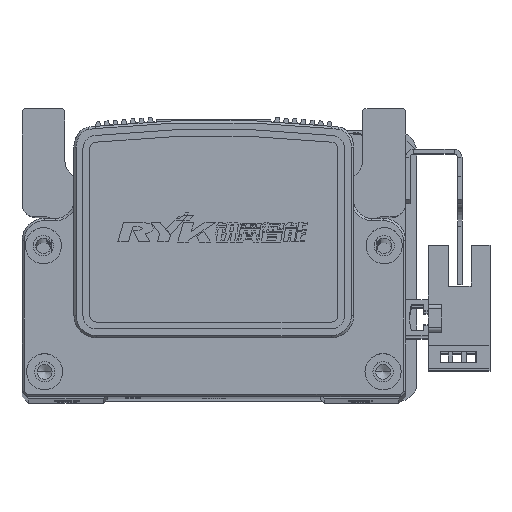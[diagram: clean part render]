
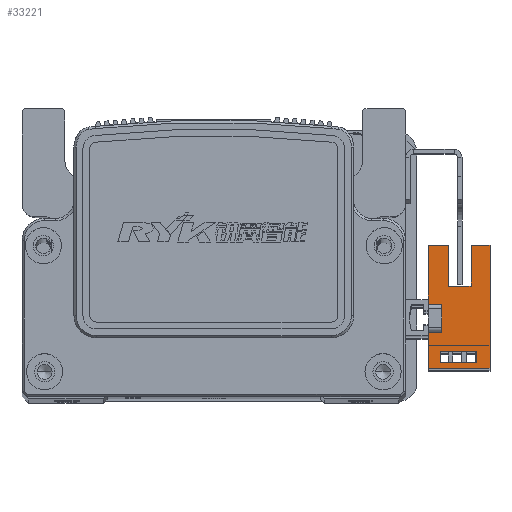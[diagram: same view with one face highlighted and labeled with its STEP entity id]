
A CAD part, top view. The second image highlights one B-rep face of the part: STEP entity #33221.
In plain terms, the highlighted planar face has unit normal (0, 0, 1) as drawn and (1, 0, 0) by its records, which use the part's own axes.
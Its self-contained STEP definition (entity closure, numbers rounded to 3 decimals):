
#4561 = CARTESIAN_POINT ( 'NONE',  ( 3.2, 3.1, 0. ) ) ;
#4572 = CARTESIAN_POINT ( 'NONE',  ( 3.2, -7.33, -7.7 ) ) ;
#4575 = CARTESIAN_POINT ( 'NONE',  ( 3.2, -11.1, -10.7 ) ) ;
#4578 = CARTESIAN_POINT ( 'NONE',  ( 3.2, -3.1, 0. ) ) ;
#4585 = CARTESIAN_POINT ( 'NONE',  ( 3.2, -9.83, -7.7 ) ) ;
#4589 = CARTESIAN_POINT ( 'NONE',  ( 3.2, 7.1, -1.5 ) ) ;
#4591 = CARTESIAN_POINT ( 'NONE',  ( 3.2, -9.83, 0.3 ) ) ;
#5791 = CARTESIAN_POINT ( 'NONE',  ( 3.2, -3.1, 3. ) ) ;
#5793 = CARTESIAN_POINT ( 'NONE',  ( 3.2, -11.1, 3. ) ) ;
#5798 = CARTESIAN_POINT ( 'NONE',  ( 3.2, 16.1, 3. ) ) ;
#5840 = CARTESIAN_POINT ( 'NONE',  ( 3.2, -7.33, 0.3 ) ) ;
#5844 = CARTESIAN_POINT ( 'NONE',  ( 3.2, 16.1, -10.7 ) ) ;
#5863 = CARTESIAN_POINT ( 'NONE',  ( 3.2, 16.1, -1.5 ) ) ;
#5866 = CARTESIAN_POINT ( 'NONE',  ( 3.2, 16.1, -6.5 ) ) ;
#5869 = CARTESIAN_POINT ( 'NONE',  ( 3.2, 7.1, -6.5 ) ) ;
#5875 = CARTESIAN_POINT ( 'NONE',  ( 3.2, 3.1, 3. ) ) ;
#8880 = EDGE_CURVE ( 'NONE', #43656, #43657, #35358, .T. ) ;
#8881 = EDGE_CURVE ( 'NONE', #43629, #43604, #35418, .T. ) ;
#8945 = EDGE_CURVE ( 'NONE', #43687, #43665, #35442, .T. ) ;
#8953 = EDGE_CURVE ( 'NONE', #43685, #43654, #35466, .T. ) ;
#8963 = EDGE_CURVE ( 'NONE', #43727, #43685, #35541, .T. ) ;
#8966 = EDGE_CURVE ( 'NONE', #43723, #43682, #35530, .T. ) ;
#8973 = EDGE_CURVE ( 'NONE', #43657, #43661, #35520, .T. ) ;
#8974 = EDGE_CURVE ( 'NONE', #43731, #43687, #35536, .T. ) ;
#8976 = EDGE_CURVE ( 'NONE', #43726, #43656, #35516, .T. ) ;
#8980 = EDGE_CURVE ( 'NONE', #43604, #43727, #35550, .T. ) ;
#8982 = EDGE_CURVE ( 'NONE', #43682, #43637, #35517, .T. ) ;
#8990 = EDGE_CURVE ( 'NONE', #43728, #43731, #35524, .T. ) ;
#8993 = EDGE_CURVE ( 'NONE', #43726, #43629, #35591, .T. ) ;
#8996 = EDGE_CURVE ( 'NONE', #43661, #43723, #35562, .T. ) ;
#8998 = EDGE_CURVE ( 'NONE', #43654, #43637, #35577, .T. ) ;
#9001 = EDGE_CURVE ( 'NONE', #43665, #43728, #35596, .T. ) ;
#12996 = FACE_BOUND ( 'NONE', #58023, .T. ) ;
#13051 = FACE_OUTER_BOUND ( 'NONE', #57981, .T. ) ;
#22020 = ORIENTED_EDGE ( 'NONE', *, *, #8993, .F. ) ;
#22021 = ORIENTED_EDGE ( 'NONE', *, *, #8880, .T. ) ;
#22022 = ORIENTED_EDGE ( 'NONE', *, *, #8976, .T. ) ;
#22023 = ORIENTED_EDGE ( 'NONE', *, *, #8953, .F. ) ;
#22026 = ORIENTED_EDGE ( 'NONE', *, *, #8998, .F. ) ;
#22032 = ORIENTED_EDGE ( 'NONE', *, *, #8990, .F. ) ;
#22035 = ORIENTED_EDGE ( 'NONE', *, *, #8945, .F. ) ;
#22047 = ORIENTED_EDGE ( 'NONE', *, *, #8982, .T. ) ;
#22053 = ORIENTED_EDGE ( 'NONE', *, *, #9001, .F. ) ;
#22056 = ORIENTED_EDGE ( 'NONE', *, *, #8966, .T. ) ;
#22077 = ORIENTED_EDGE ( 'NONE', *, *, #8974, .F. ) ;
#22080 = ORIENTED_EDGE ( 'NONE', *, *, #8996, .T. ) ;
#22081 = ORIENTED_EDGE ( 'NONE', *, *, #8980, .F. ) ;
#22112 = ORIENTED_EDGE ( 'NONE', *, *, #8973, .T. ) ;
#22121 = ORIENTED_EDGE ( 'NONE', *, *, #8963, .F. ) ;
#22143 = ORIENTED_EDGE ( 'NONE', *, *, #8881, .F. ) ;
#24458 = DIRECTION ( 'NONE',  ( 0., 0., 1. ) ) ;
#24465 = DIRECTION ( 'NONE',  ( 0., 1., 0. ) ) ;
#24477 = CARTESIAN_POINT ( 'NONE',  ( 3.2, 16.1, -10.7 ) ) ;
#24479 = CARTESIAN_POINT ( 'NONE',  ( 3.2, 16.1, 3. ) ) ;
#30643 = AXIS2_PLACEMENT_3D ( 'NONE', #59381, #59377, #59398 ) ;
#33221 = ADVANCED_FACE ( 'NONE', ( #13051, #12996 ), #59379, .T. ) ;
#35358 = LINE ( 'NONE', #24477, #35360 ) ;
#35360 = VECTOR ( 'NONE', #24458, 1000. ) ;
#35362 = VECTOR ( 'NONE', #24465, 1000. ) ;
#35418 = LINE ( 'NONE', #24479, #35362 ) ;
#35442 = LINE ( 'NONE', #38750, #35444 ) ;
#35444 = VECTOR ( 'NONE', #38768, 1000. ) ;
#35466 = LINE ( 'NONE', #38748, #35467 ) ;
#35467 = VECTOR ( 'NONE', #38764, 1000. ) ;
#35490 = VECTOR ( 'NONE', #38863, 1000. ) ;
#35491 = VECTOR ( 'NONE', #38794, 1000. ) ;
#35493 = VECTOR ( 'NONE', #38831, 1000. ) ;
#35500 = VECTOR ( 'NONE', #38799, 1000. ) ;
#35508 = VECTOR ( 'NONE', #38853, 1000. ) ;
#35516 = LINE ( 'NONE', #38793, #35549 ) ;
#35517 = LINE ( 'NONE', #38844, #35508 ) ;
#35520 = LINE ( 'NONE', #38798, #35500 ) ;
#35524 = LINE ( 'NONE', #38835, #35526 ) ;
#35526 = VECTOR ( 'NONE', #38836, 1000. ) ;
#35530 = LINE ( 'NONE', #38790, #35535 ) ;
#35535 = VECTOR ( 'NONE', #38819, 1000. ) ;
#35536 = LINE ( 'NONE', #38839, #35490 ) ;
#35541 = LINE ( 'NONE', #38803, #35491 ) ;
#35549 = VECTOR ( 'NONE', #38852, 1000. ) ;
#35550 = LINE ( 'NONE', #38830, #35493 ) ;
#35562 = LINE ( 'NONE', #38897, #35593 ) ;
#35568 = VECTOR ( 'NONE', #38877, 1000. ) ;
#35577 = LINE ( 'NONE', #38883, #35603 ) ;
#35580 = VECTOR ( 'NONE', #38880, 1000. ) ;
#35591 = LINE ( 'NONE', #38903, #35568 ) ;
#35593 = VECTOR ( 'NONE', #38888, 1000. ) ;
#35596 = LINE ( 'NONE', #38908, #35580 ) ;
#35603 = VECTOR ( 'NONE', #38912, 1000. ) ;
#38748 = CARTESIAN_POINT ( 'NONE',  ( 3.2, 3.1, 3. ) ) ;
#38750 = CARTESIAN_POINT ( 'NONE',  ( 3.2, -7.33, -10.7 ) ) ;
#38764 = DIRECTION ( 'NONE',  ( 0., 0., 1. ) ) ;
#38768 = DIRECTION ( 'NONE',  ( 0., 0., 1. ) ) ;
#38790 = CARTESIAN_POINT ( 'NONE',  ( 3.2, 25.1, -1.5 ) ) ;
#38793 = CARTESIAN_POINT ( 'NONE',  ( 3.2, 16.1, -10.7 ) ) ;
#38794 = DIRECTION ( 'NONE',  ( 0., 1., 0. ) ) ;
#38798 = CARTESIAN_POINT ( 'NONE',  ( 3.2, 25.1, -6.5 ) ) ;
#38799 = DIRECTION ( 'NONE',  ( 0., -1., 0. ) ) ;
#38803 = CARTESIAN_POINT ( 'NONE',  ( 3.2, 0., 0. ) ) ;
#38819 = DIRECTION ( 'NONE',  ( 0., 1., 0. ) ) ;
#38830 = CARTESIAN_POINT ( 'NONE',  ( 3.2, -3.1, 3. ) ) ;
#38831 = DIRECTION ( 'NONE',  ( 0., 0., -1. ) ) ;
#38835 = CARTESIAN_POINT ( 'NONE',  ( 3.2, -9.83, -10.7 ) ) ;
#38836 = DIRECTION ( 'NONE',  ( 0., 0., -1. ) ) ;
#38839 = CARTESIAN_POINT ( 'NONE',  ( 3.2, 16.1, -7.7 ) ) ;
#38844 = CARTESIAN_POINT ( 'NONE',  ( 3.2, 16.1, -10.7 ) ) ;
#38852 = DIRECTION ( 'NONE',  ( 0., 1., 0. ) ) ;
#38853 = DIRECTION ( 'NONE',  ( 0., 0., 1. ) ) ;
#38863 = DIRECTION ( 'NONE',  ( 0., 1., 0. ) ) ;
#38877 = DIRECTION ( 'NONE',  ( 0., 0., 1. ) ) ;
#38880 = DIRECTION ( 'NONE',  ( 0., -1., 0. ) ) ;
#38883 = CARTESIAN_POINT ( 'NONE',  ( 3.2, 16.1, 3. ) ) ;
#38888 = DIRECTION ( 'NONE',  ( 0., 0., 1. ) ) ;
#38897 = CARTESIAN_POINT ( 'NONE',  ( 3.2, 7.1, -6.5 ) ) ;
#38903 = CARTESIAN_POINT ( 'NONE',  ( 3.2, -11.1, 3. ) ) ;
#38908 = CARTESIAN_POINT ( 'NONE',  ( 3.2, 16.1, 0.3 ) ) ;
#38912 = DIRECTION ( 'NONE',  ( 0., 1., 0. ) ) ;
#43604 = VERTEX_POINT ( 'NONE', #5791 ) ;
#43629 = VERTEX_POINT ( 'NONE', #5793 ) ;
#43637 = VERTEX_POINT ( 'NONE', #5798 ) ;
#43654 = VERTEX_POINT ( 'NONE', #5875 ) ;
#43656 = VERTEX_POINT ( 'NONE', #5844 ) ;
#43657 = VERTEX_POINT ( 'NONE', #5866 ) ;
#43661 = VERTEX_POINT ( 'NONE', #5869 ) ;
#43665 = VERTEX_POINT ( 'NONE', #5840 ) ;
#43682 = VERTEX_POINT ( 'NONE', #5863 ) ;
#43685 = VERTEX_POINT ( 'NONE', #4561 ) ;
#43687 = VERTEX_POINT ( 'NONE', #4572 ) ;
#43723 = VERTEX_POINT ( 'NONE', #4589 ) ;
#43726 = VERTEX_POINT ( 'NONE', #4575 ) ;
#43727 = VERTEX_POINT ( 'NONE', #4578 ) ;
#43728 = VERTEX_POINT ( 'NONE', #4591 ) ;
#43731 = VERTEX_POINT ( 'NONE', #4585 ) ;
#57981 = EDGE_LOOP ( 'NONE', ( #22112, #22080, #22056, #22047, #22026, #22023, #22121, #22081, #22143, #22020, #22022, #22021 ) ) ;
#58023 = EDGE_LOOP ( 'NONE', ( #22053, #22035, #22077, #22032 ) ) ;
#59377 = DIRECTION ( 'NONE',  ( 1., 0., 0. ) ) ;
#59379 = PLANE ( 'NONE',  #30643 ) ;
#59381 = CARTESIAN_POINT ( 'NONE',  ( 3.2, 16.1, -10.7 ) ) ;
#59398 = DIRECTION ( 'NONE',  ( 0., 1., 0. ) ) ;
